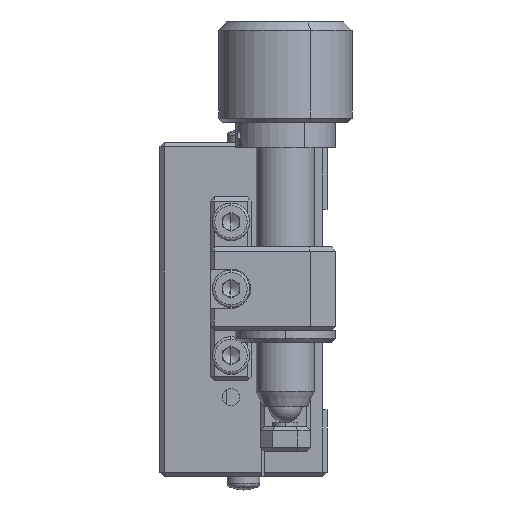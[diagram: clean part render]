
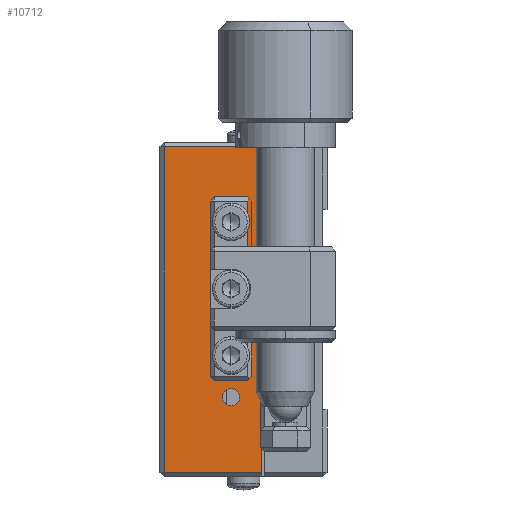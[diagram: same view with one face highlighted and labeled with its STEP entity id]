
A CAD part, left-side view. The second image highlights one B-rep face of the part: STEP entity #10712.
In plain terms, the highlighted planar face has unit normal (-1, 0, 0).
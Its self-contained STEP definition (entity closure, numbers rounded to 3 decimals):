
#560 = DIRECTION ( 'NONE',  ( 0., 0., 1. ) ) ;
#641 = CARTESIAN_POINT ( 'NONE',  ( -23.17, -1.977, 45.8 ) ) ;
#911 = CARTESIAN_POINT ( 'NONE',  ( -23.17, -1.977, 41.825 ) ) ;
#915 = ORIENTED_EDGE ( 'NONE', *, *, #5483, .T. ) ;
#950 = DIRECTION ( 'NONE',  ( 0., 1., 0. ) ) ;
#1123 = FACE_BOUND ( 'NONE', #8370, .T. ) ;
#1266 = EDGE_CURVE ( 'NONE', #1571, #15363, #10244, .T. ) ;
#1571 = VERTEX_POINT ( 'NONE', #20646 ) ;
#1622 = CARTESIAN_POINT ( 'NONE',  ( -23.17, -1.977, 39.775 ) ) ;
#1658 = ORIENTED_EDGE ( 'NONE', *, *, #13658, .T. ) ;
#1659 = DIRECTION ( 'NONE',  ( -1., 0., 0. ) ) ;
#1757 = VERTEX_POINT ( 'NONE', #11387 ) ;
#2213 = ORIENTED_EDGE ( 'NONE', *, *, #16272, .F. ) ;
#2419 = ORIENTED_EDGE ( 'NONE', *, *, #10698, .T. ) ;
#2490 = DIRECTION ( 'NONE',  ( -1., 0., 0. ) ) ;
#2762 = CARTESIAN_POINT ( 'NONE',  ( -23.17, -5.677, 70.8 ) ) ;
#3261 = VERTEX_POINT ( 'NONE', #1622 ) ;
#3465 = CARTESIAN_POINT ( 'NONE',  ( -23.17, 6.023, 71.3 ) ) ;
#3651 = EDGE_CURVE ( 'NONE', #5371, #23068, #6688, .T. ) ;
#3745 = AXIS2_PLACEMENT_3D ( 'NONE', #22587, #22428, #11790 ) ;
#3796 = VECTOR ( 'NONE', #21650, 1000. ) ;
#3853 = CIRCLE ( 'NONE', #5086, 1.025 ) ;
#3917 = CARTESIAN_POINT ( 'NONE',  ( -23.17, -5.677, 31.8 ) ) ;
#4220 = DIRECTION ( 'NONE',  ( 0., 0., 1. ) ) ;
#4396 = CARTESIAN_POINT ( 'NONE',  ( -23.17, -5.677, 31.8 ) ) ;
#5086 = AXIS2_PLACEMENT_3D ( 'NONE', #19909, #12793, #8973 ) ;
#5268 = ORIENTED_EDGE ( 'NONE', *, *, #3651, .F. ) ;
#5371 = VERTEX_POINT ( 'NONE', #15889 ) ;
#5483 = EDGE_CURVE ( 'NONE', #12540, #1571, #10053, .T. ) ;
#5701 = EDGE_CURVE ( 'NONE', #12485, #3261, #15907, .T. ) ;
#5941 = DIRECTION ( 'NONE',  ( 0., 0., 1. ) ) ;
#6688 = CIRCLE ( 'NONE', #15674, 1.025 ) ;
#6786 = LINE ( 'NONE', #3465, #8524 ) ;
#6889 = EDGE_LOOP ( 'NONE', ( #19549, #10865 ) ) ;
#7094 = CARTESIAN_POINT ( 'NONE',  ( -23.17, 6.023, 31.8 ) ) ;
#7145 = DIRECTION ( 'NONE',  ( 0., 0., 1. ) ) ;
#7350 = EDGE_LOOP ( 'NONE', ( #22061, #2213 ) ) ;
#7461 = EDGE_CURVE ( 'NONE', #23068, #5371, #3853, .T. ) ;
#7704 = AXIS2_PLACEMENT_3D ( 'NONE', #641, #18837, #560 ) ;
#7882 = DIRECTION ( 'NONE',  ( -1., 0., 0. ) ) ;
#8234 = CARTESIAN_POINT ( 'NONE',  ( -23.17, -1.977, 46.825 ) ) ;
#8370 = EDGE_LOOP ( 'NONE', ( #16137, #5268 ) ) ;
#8524 = VECTOR ( 'NONE', #16005, 1000. ) ;
#8732 = CARTESIAN_POINT ( 'NONE',  ( -23.17, -5.677, 71.3 ) ) ;
#8965 = VERTEX_POINT ( 'NONE', #7094 ) ;
#8973 = DIRECTION ( 'NONE',  ( 0., 0., 1. ) ) ;
#9070 = CARTESIAN_POINT ( 'NONE',  ( -23.17, -1.977, 61.8 ) ) ;
#9121 = EDGE_CURVE ( 'NONE', #16960, #1757, #9180, .T. ) ;
#9180 = CIRCLE ( 'NONE', #7704, 1.025 ) ;
#9251 = AXIS2_PLACEMENT_3D ( 'NONE', #10505, #14170, #19842 ) ;
#9602 = ORIENTED_EDGE ( 'NONE', *, *, #1266, .T. ) ;
#10053 = LINE ( 'NONE', #14287, #3796 ) ;
#10244 = LINE ( 'NONE', #2762, #23442 ) ;
#10314 = CIRCLE ( 'NONE', #19714, 1.025 ) ;
#10505 = CARTESIAN_POINT ( 'NONE',  ( -23.17, -1.977, 56.8 ) ) ;
#10698 = EDGE_CURVE ( 'NONE', #15363, #8965, #6786, .T. ) ;
#10712 = ADVANCED_FACE ( 'NONE', ( #13081, #15101, #13675, #1123, #16527 ), #21679, .T. ) ;
#10865 = ORIENTED_EDGE ( 'NONE', *, *, #18601, .F. ) ;
#11387 = CARTESIAN_POINT ( 'NONE',  ( -23.17, -1.977, 44.775 ) ) ;
#11741 = AXIS2_PLACEMENT_3D ( 'NONE', #8732, #18169, #12405 ) ;
#11790 = DIRECTION ( 'NONE',  ( 0., 0., 1. ) ) ;
#11855 = CARTESIAN_POINT ( 'NONE',  ( -23.17, 6.023, 70.8 ) ) ;
#11962 = LINE ( 'NONE', #3917, #20264 ) ;
#12405 = DIRECTION ( 'NONE',  ( 0., 0., 1. ) ) ;
#12425 = ORIENTED_EDGE ( 'NONE', *, *, #12527, .F. ) ;
#12485 = VERTEX_POINT ( 'NONE', #911 ) ;
#12527 = EDGE_CURVE ( 'NONE', #16282, #13319, #10314, .T. ) ;
#12540 = VERTEX_POINT ( 'NONE', #4396 ) ;
#12793 = DIRECTION ( 'NONE',  ( -1., 0., 0. ) ) ;
#13081 = FACE_BOUND ( 'NONE', #7350, .T. ) ;
#13319 = VERTEX_POINT ( 'NONE', #22962 ) ;
#13537 = CARTESIAN_POINT ( 'NONE',  ( -23.17, -1.977, 40.8 ) ) ;
#13658 = EDGE_CURVE ( 'NONE', #8965, #12540, #11962, .T. ) ;
#13675 = FACE_BOUND ( 'NONE', #23473, .T. ) ;
#14170 = DIRECTION ( 'NONE',  ( -1., 0., 0. ) ) ;
#14287 = CARTESIAN_POINT ( 'NONE',  ( -23.17, -5.677, 71.3 ) ) ;
#14994 = DIRECTION ( 'NONE',  ( -1., 0., 0. ) ) ;
#14997 = AXIS2_PLACEMENT_3D ( 'NONE', #13537, #14994, #5941 ) ;
#15101 = FACE_BOUND ( 'NONE', #6889, .T. ) ;
#15211 = ORIENTED_EDGE ( 'NONE', *, *, #17680, .F. ) ;
#15363 = VERTEX_POINT ( 'NONE', #11855 ) ;
#15674 = AXIS2_PLACEMENT_3D ( 'NONE', #9070, #1659, #7145 ) ;
#15889 = CARTESIAN_POINT ( 'NONE',  ( -23.17, -1.977, 60.775 ) ) ;
#15907 = CIRCLE ( 'NONE', #14997, 1.025 ) ;
#16005 = DIRECTION ( 'NONE',  ( 0., 0., -1. ) ) ;
#16137 = ORIENTED_EDGE ( 'NONE', *, *, #7461, .F. ) ;
#16272 = EDGE_CURVE ( 'NONE', #3261, #12485, #19820, .T. ) ;
#16282 = VERTEX_POINT ( 'NONE', #22344 ) ;
#16335 = CARTESIAN_POINT ( 'NONE',  ( -23.17, -1.977, 62.825 ) ) ;
#16527 = FACE_OUTER_BOUND ( 'NONE', #19606, .T. ) ;
#16960 = VERTEX_POINT ( 'NONE', #8234 ) ;
#17680 = EDGE_CURVE ( 'NONE', #13319, #16282, #19197, .T. ) ;
#18073 = CIRCLE ( 'NONE', #18461, 1.025 ) ;
#18169 = DIRECTION ( 'NONE',  ( -1., 0., 0. ) ) ;
#18461 = AXIS2_PLACEMENT_3D ( 'NONE', #19084, #7882, #4220 ) ;
#18601 = EDGE_CURVE ( 'NONE', #1757, #16960, #18073, .T. ) ;
#18837 = DIRECTION ( 'NONE',  ( -1., 0., 0. ) ) ;
#19084 = CARTESIAN_POINT ( 'NONE',  ( -23.17, -1.977, 45.8 ) ) ;
#19107 = DIRECTION ( 'NONE',  ( 0., 0., 1. ) ) ;
#19197 = CIRCLE ( 'NONE', #9251, 1.025 ) ;
#19549 = ORIENTED_EDGE ( 'NONE', *, *, #9121, .F. ) ;
#19606 = EDGE_LOOP ( 'NONE', ( #2419, #1658, #915, #9602 ) ) ;
#19714 = AXIS2_PLACEMENT_3D ( 'NONE', #21014, #2490, #19107 ) ;
#19820 = CIRCLE ( 'NONE', #3745, 1.025 ) ;
#19842 = DIRECTION ( 'NONE',  ( 0., 0., 1. ) ) ;
#19909 = CARTESIAN_POINT ( 'NONE',  ( -23.17, -1.977, 61.8 ) ) ;
#20264 = VECTOR ( 'NONE', #20522, 1000. ) ;
#20522 = DIRECTION ( 'NONE',  ( 0., -1., 0. ) ) ;
#20646 = CARTESIAN_POINT ( 'NONE',  ( -23.17, -5.677, 70.8 ) ) ;
#21014 = CARTESIAN_POINT ( 'NONE',  ( -23.17, -1.977, 56.8 ) ) ;
#21650 = DIRECTION ( 'NONE',  ( 0., 0., 1. ) ) ;
#21679 = PLANE ( 'NONE',  #11741 ) ;
#22061 = ORIENTED_EDGE ( 'NONE', *, *, #5701, .F. ) ;
#22344 = CARTESIAN_POINT ( 'NONE',  ( -23.17, -1.977, 57.825 ) ) ;
#22428 = DIRECTION ( 'NONE',  ( -1., 0., 0. ) ) ;
#22587 = CARTESIAN_POINT ( 'NONE',  ( -23.17, -1.977, 40.8 ) ) ;
#22962 = CARTESIAN_POINT ( 'NONE',  ( -23.17, -1.977, 55.775 ) ) ;
#23068 = VERTEX_POINT ( 'NONE', #16335 ) ;
#23442 = VECTOR ( 'NONE', #950, 1000. ) ;
#23473 = EDGE_LOOP ( 'NONE', ( #12425, #15211 ) ) ;
